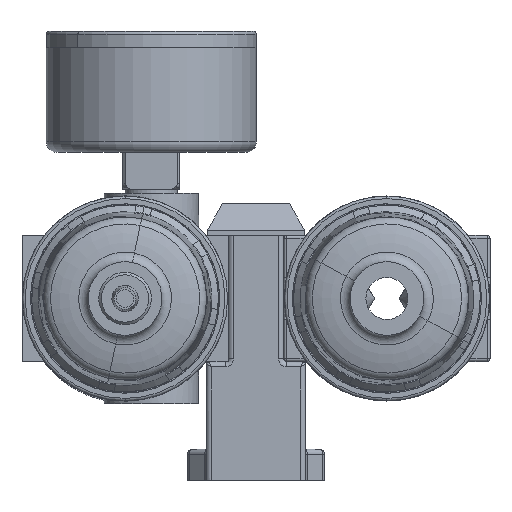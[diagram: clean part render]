
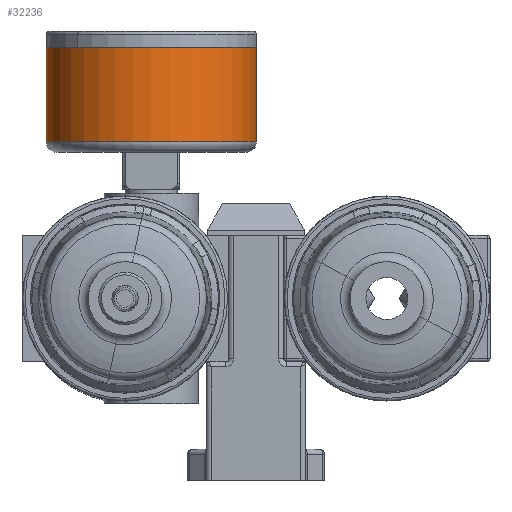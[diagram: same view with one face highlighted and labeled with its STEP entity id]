
A CAD part, front view. The second image highlights one B-rep face of the part: STEP entity #32236.
In plain terms, the highlighted cylindrical face has radius 20 mm (diameter 40 mm), a partial arc.
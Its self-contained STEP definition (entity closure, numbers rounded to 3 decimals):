
#2033 = CARTESIAN_POINT ( 'NONE',  ( 0., 0., 2. ) ) ;
#2513 = DIRECTION ( 'NONE',  ( -1., 0., 0. ) ) ;
#2683 = DIRECTION ( 'NONE',  ( 0., 0., -1. ) ) ;
#2685 = VECTOR ( 'NONE', #2683, 1000. ) ;
#4160 = AXIS2_PLACEMENT_3D ( 'NONE', #64357, #36081, #7692 ) ;
#7692 = DIRECTION ( 'NONE',  ( -1., 0., 0. ) ) ;
#8770 = CARTESIAN_POINT ( 'NONE',  ( -20., 0., 0. ) ) ;
#10882 = EDGE_CURVE ( 'NONE', #56259, #52931, #63519, .T. ) ;
#12830 = CARTESIAN_POINT ( 'NONE',  ( -20., 0., 2. ) ) ;
#12896 = ORIENTED_EDGE ( 'NONE', *, *, #13587, .F. ) ;
#13343 = VERTEX_POINT ( 'NONE', #60966 ) ;
#13587 = EDGE_CURVE ( 'NONE', #39184, #52931, #52071, .T. ) ;
#14786 = CARTESIAN_POINT ( 'NONE',  ( 0., 0., 20. ) ) ;
#20263 = EDGE_CURVE ( 'NONE', #13343, #39184, #66425, .T. ) ;
#21657 = DIRECTION ( 'NONE',  ( -1., 0., 0. ) ) ;
#25083 = EDGE_LOOP ( 'NONE', ( #40078, #69989, #40521, #12896 ) ) ;
#29617 = CARTESIAN_POINT ( 'NONE',  ( 20., 0., 0. ) ) ;
#32236 = ADVANCED_FACE ( 'NONE', ( #45099 ), #42441, .T. ) ;
#32253 = CARTESIAN_POINT ( 'NONE',  ( 20., 0., 2. ) ) ;
#32503 = DIRECTION ( 'NONE',  ( 0., 0., -1. ) ) ;
#36081 = DIRECTION ( 'NONE',  ( 0., 0., -1. ) ) ;
#36194 = EDGE_CURVE ( 'NONE', #13343, #56259, #40811, .T. ) ;
#39184 = VERTEX_POINT ( 'NONE', #32253 ) ;
#40078 = ORIENTED_EDGE ( 'NONE', *, *, #20263, .F. ) ;
#40521 = ORIENTED_EDGE ( 'NONE', *, *, #10882, .T. ) ;
#40811 = CIRCLE ( 'NONE', #64077, 20. ) ;
#41067 = DIRECTION ( 'NONE',  ( 0., 0., -1. ) ) ;
#41959 = AXIS2_PLACEMENT_3D ( 'NONE', #2033, #41067, #2513 ) ;
#42441 = CYLINDRICAL_SURFACE ( 'NONE', #4160, 20. ) ;
#45099 = FACE_OUTER_BOUND ( 'NONE', #25083, .T. ) ;
#48389 = VECTOR ( 'NONE', #60727, 1000. ) ;
#51584 = CARTESIAN_POINT ( 'NONE',  ( -20., 0., 20. ) ) ;
#52071 = CIRCLE ( 'NONE', #41959, 20. ) ;
#52931 = VERTEX_POINT ( 'NONE', #12830 ) ;
#56259 = VERTEX_POINT ( 'NONE', #51584 ) ;
#60727 = DIRECTION ( 'NONE',  ( 0., 0., -1. ) ) ;
#60966 = CARTESIAN_POINT ( 'NONE',  ( 20., 0., 20. ) ) ;
#63519 = LINE ( 'NONE', #8770, #48389 ) ;
#64077 = AXIS2_PLACEMENT_3D ( 'NONE', #14786, #32503, #21657 ) ;
#64357 = CARTESIAN_POINT ( 'NONE',  ( 0., 0., 0. ) ) ;
#66425 = LINE ( 'NONE', #29617, #2685 ) ;
#69989 = ORIENTED_EDGE ( 'NONE', *, *, #36194, .T. ) ;
